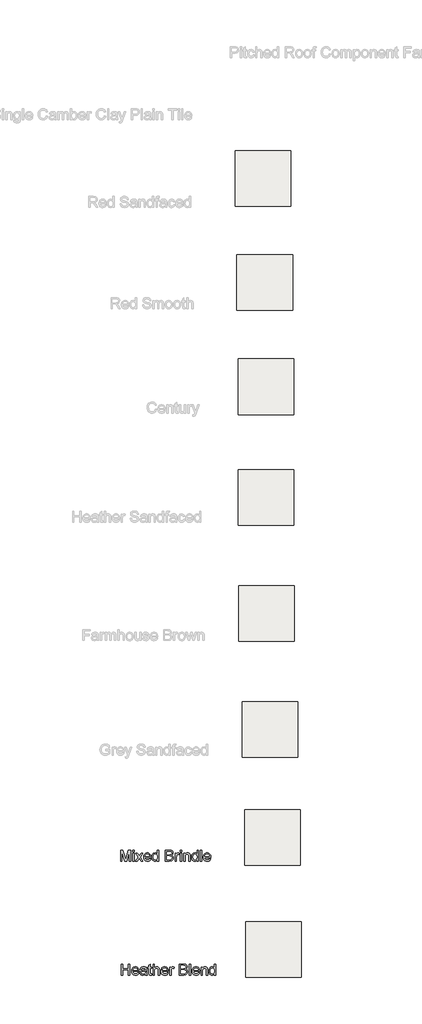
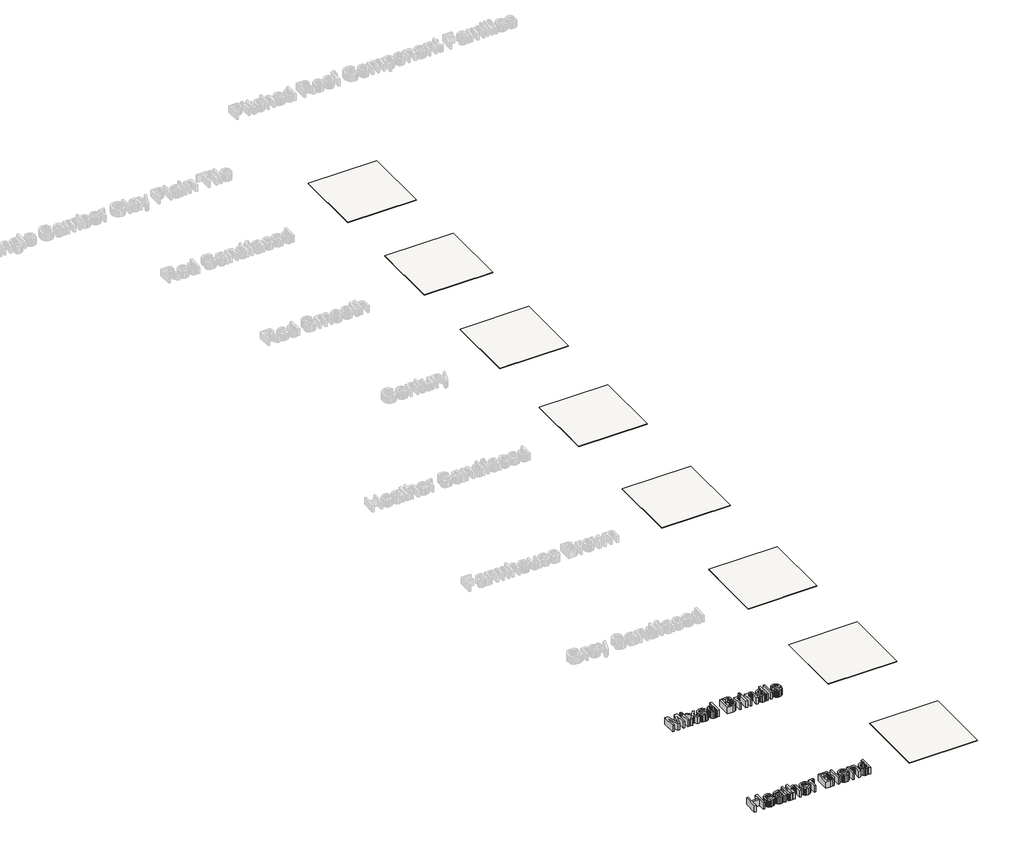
# One storey, part 1 of 6: 8 coverings, 2 proxies.
"""IFC4 building model written with IfcOpenShell, lengths in millimetres."""

from ifc_helpers import new_model, si_unit, frame, origin, place, context, project, spatial, polyline, outline, extrude, element, save

model = new_model("IFC4")

# Units and contexts
model_context = context("Model", 3, world=origin())
ifc_project = project(units=[si_unit("LENGTHUNIT", "METRE", prefix="MILLI")], contexts=[model_context])

# Site, building, storey
site = spatial("IfcSite", under=ifc_project)
building = spatial("IfcBuilding", under=site)
storey = spatial("IfcBuildingStorey", under=building, Name="Marley Clay Plain Tile", Elevation=3000.0)

# Proxies
placement = place(None, origin())
element("IfcBuildingElementProxy", 1, Name="600mm Arial", ObjectType="600mm Arial", at=placement, inside=storey, context=model_context, shape_type="SweptSolid", body=[
    extrude(outline(polyline([(-13857.863219, -14091.6887521), (-13857.863219, -13796.3041367), (-13794.3295651, -13796.3041367), (-13733.8968728, -14004.5012521), (-13721.7093728, -14047.986829), (-13708.5122574, -14000.8954829), (-13649.0891805, -13796.3041367), (-13585.5555267, -13796.3041367), (-13585.5555267, -14091.6887521), (-13622.4786036, -14091.6887521), (-13622.4786036, -13833.2272137), (-13696.6853344, -14091.6887521), (-13746.7334113, -14091.6887521), (-13820.940142, -13833.2272137), (-13820.940142, -14091.6887521), (-13857.863219, -14091.6887521)])), frame((0.0, 0.0, 3000.0), z_axis=(0.0, 0.0, 1.0), x_axis=(1.0, 0.0, 0.0)), (0.0, 0.0, 1.0), 150.0),
    extrude(outline(polyline([(-13525.5555267, -14091.6887521), (-13525.5555267, -13874.7656752), (-13488.6324497, -13874.7656752), (-13488.6324497, -14091.6887521), (-13525.5555267, -14091.6887521)])), frame((0.0, 0.0, 3000.0), z_axis=(0.0, 0.0, 1.0), x_axis=(1.0, 0.0, 0.0)), (0.0, 0.0, 1.0), 150.0),
    extrude(outline(polyline([(-13525.5555267, -13833.2272137), (-13525.5555267, -13796.3041367), (-13488.6324497, -13796.3041367), (-13488.6324497, -13833.2272137), (-13525.5555267, -13833.2272137)])), frame((0.0, 0.0, 3000.0), z_axis=(0.0, 0.0, 1.0), x_axis=(1.0, 0.0, 0.0)), (0.0, 0.0, 1.0), 150.0),
    extrude(outline(polyline([(-13456.3247574, -14091.6887521), (-13377.4305267, -13982.6502906), (-13451.7093728, -13874.7656752), (-13407.2862959, -13874.7656752), (-13371.4449497, -13926.6887521), (-13354.7141805, -13951.2079829), (-13340.2189882, -13931.159906), (-13299.4016805, -13874.7656752), (-13254.9786036, -13874.7656752), (-13333.0074497, -13982.6502906), (-13257.863219, -14091.6887521), (-13302.2862959, -14091.6887521), (-13347.502642, -14026.1358675), (-13355.7959113, -14014.1647137), (-13411.9016805, -14091.6887521), (-13456.3247574, -14091.6887521)])), frame((0.0, 0.0, 3000.0), z_axis=(0.0, 0.0, 1.0), x_axis=(1.0, 0.0, 0.0)), (0.0, 0.0, 1.0), 150.0),
    extrude(outline(polyline([(-13073.6805267, -14027.0733675), (-13037.4786036, -14031.6887521), (-13050.5224738, -14058.9663963), (-13071.3367767, -14079.3570213), (-13099.4527622, -14092.0673579), (-13134.4016805, -14096.3041367), (-13157.3118368, -14094.4764624), (-13177.7249978, -14088.9934396), (-13195.6411637, -14079.8550682), (-13211.0603344, -14067.0613483), (-13223.4596733, -14050.9683495), (-13232.316344, -14031.9321415), (-13237.6303464, -14009.9527245), (-13239.4016805, -13985.0300983), (-13237.6123175, -13959.2623699), (-13232.2442286, -13936.550531), (-13223.2974137, -13916.8945814), (-13210.7718728, -13900.2945213), (-13195.393267, -13887.1064204), (-13177.8872574, -13877.6863483), (-13158.253844, -13872.034305), (-13136.4930267, -13870.1502906), (-13115.4330807, -13872.0297978), (-13096.3878584, -13877.6683194), (-13079.3573596, -13887.0658555), (-13064.3415844, -13900.222406), (-13052.0842226, -13916.7864084), (-13043.3289642, -13936.4063002), (-13038.0758091, -13959.0820814), (-13036.3247574, -13984.8137521), (-13036.5411036, -13994.7656752), (-13202.4786036, -13994.7656752), (-13196.0873776, -14022.4038963), (-13181.2406228, -14042.722406), (-13159.8133392, -14055.2163963), (-13133.6805267, -14059.3810598), (-13114.0290844, -14057.4519733), (-13097.4786036, -14051.6647137), (-13084.0290844, -14041.658704), (-13073.6805267, -14027.0733675)]), holes=[polyline([(-13202.4786036, -13957.8425983), (-13073.2478344, -13957.8425983), (-13078.2418247, -13938.3353867), (-13088.0314882, -13924.3810598), (-13109.5579305, -13911.4002906), (-13136.6372574, -13907.0733675), (-13161.5260795, -13910.5258915), (-13182.1060074, -13920.8834637), (-13196.4118969, -13937.0282954), (-13202.4786036, -13957.8425983)])]), frame((0.0, 0.0, 3000.0), z_axis=(0.0, 0.0, 1.0), x_axis=(1.0, 0.0, 0.0)), (0.0, 0.0, 1.0), 150.0),
    extrude(outline(polyline([(-12865.5555267, -14091.6887521), (-12865.5555267, -14056.8570213), (-12876.6027021, -14074.1151343), (-12889.9846132, -14086.4423579), (-12905.7012598, -14093.838692), (-12923.752642, -14096.3041367), (-12947.6228344, -14092.7344252), (-12969.4737959, -14082.0252906), (-12987.971392, -14064.92493), (-13001.7814882, -14042.1815406), (-13010.3812478, -14014.7145935), (-13013.2478344, -13983.4435598), (-13010.6066084, -13952.5601463), (-13002.6829305, -13924.6695213), (-12989.4858151, -13901.3582233), (-12971.0242767, -13884.2127906), (-12948.6955507, -13873.6659156), (-12923.8968728, -13870.1502906), (-12905.831969, -13872.6653146), (-12889.8584113, -13880.2103867), (-12876.3187478, -13891.7758915), (-12865.5555267, -13906.3522137), (-12865.5555267, -13796.3041367), (-12828.6324497, -13796.3041367), (-12828.6324497, -14091.6887521), (-12865.5555267, -14091.6887521)]), holes=[polyline([(-12976.3247574, -13983.299329), (-12972.160094, -14016.6977665), (-12959.6661036, -14040.4507713), (-12941.5110555, -14054.6484877), (-12920.363219, -14059.3810598), (-12899.2243969, -14054.8648338), (-12881.5290844, -14041.316156), (-12869.5489161, -14018.4826223), (-12865.5555267, -13986.111829), (-12869.6210315, -13950.721204), (-12881.8175459, -13926.1839444), (-12899.9635795, -13911.8510117), (-12921.877642, -13907.0733675), (-12943.2418247, -13911.6617088), (-12960.7478344, -13925.4267329), (-12972.4305267, -13949.0715646), (-12976.3247574, -13983.299329)])]), frame((0.0, 0.0, 3000.0), z_axis=(0.0, 0.0, 1.0), x_axis=(1.0, 0.0, 0.0)), (0.0, 0.0, 1.0), 150.0),
    extrude(outline(polyline([(-12653.2478344, -14091.6887521), (-12653.2478344, -13796.3041367), (-12540.5314882, -13796.3041367), (-12509.5308872, -13798.4766127), (-12485.3271613, -13804.9940406), (-12466.7754786, -13816.01868), (-12452.7310074, -13831.7127906), (-12443.8878584, -13850.174329), (-12440.940142, -13869.5012521), (-12443.4191084, -13887.2867088), (-12450.8560074, -13904.0084637), (-12463.3049257, -13918.6388723), (-12480.8199497, -13930.1502906), (-12459.8974738, -13941.0757713), (-12444.4377382, -13957.6983675), (-12434.8914642, -13978.9183194), (-12431.7093728, -14003.6358675), (-12433.8818488, -14024.2338242), (-12440.3992767, -14043.3353867), (-12450.1258392, -14059.5793771), (-12461.925719, -14071.6046175), (-12476.3758392, -14080.3125502), (-12494.0531228, -14086.6046175), (-12541.3968728, -14091.6887521), (-12653.2478344, -14091.6887521)]), holes=[polyline([(-12616.3247574, -13916.3041367), (-12548.8968728, -13916.3041367), (-12509.5218728, -13913.1310598), (-12495.7388199, -13907.659305), (-12485.831969, -13899.4651944), (-12479.8554065, -13888.67493), (-12477.863219, -13875.4147137), (-12479.7201901, -13862.5421175), (-12485.2911036, -13851.3281752), (-12494.3235555, -13842.5751704), (-12506.565142, -13837.0853867), (-12554.0170651, -13833.2272137), (-12616.3247574, -13833.2272137), (-12616.3247574, -13916.3041367)]), polyline([(-12616.3247574, -14054.7656752), (-12540.6036036, -14054.7656752), (-12513.1997574, -14053.3233675), (-12490.0146613, -14045.2825021), (-12474.6540844, -14028.8762521), (-12470.1378584, -14017.283704), (-12468.6324497, -14003.9964444), (-12470.3992767, -13988.5637521), (-12475.6997574, -13975.2945213), (-12484.9575699, -13964.9189204), (-12498.596392, -13958.1671175), (-12517.9143007, -13954.4621896), (-12544.2093728, -13953.2272137), (-12616.3247574, -13953.2272137), (-12616.3247574, -14054.7656752)])]), frame((0.0, 0.0, 3000.0), z_axis=(0.0, 0.0, 1.0), x_axis=(1.0, 0.0, 0.0)), (0.0, 0.0, 1.0), 150.0),
    extrude(outline(polyline([(-12385.5555267, -14091.6887521), (-12385.5555267, -13874.7656752), (-12353.2478344, -13874.7656752), (-12353.2478344, -13906.8570213), (-12341.3127382, -13888.2512521), (-12330.315142, -13877.2897137), (-12319.2814882, -13871.9351463), (-12307.238219, -13870.1502906), (-12288.8487959, -13872.9988483), (-12270.1709113, -13881.5445213), (-12282.502642, -13914.6454829), (-12295.4834113, -13908.9663963), (-12308.4641805, -13907.0733675), (-12319.4888199, -13908.894281), (-12329.3415844, -13914.3570213), (-12337.3013199, -13923.0469252), (-12342.6468728, -13934.549329), (-12347.1360555, -13955.174329), (-12348.6324497, -13977.674329), (-12348.6324497, -14091.6887521), (-12385.5555267, -14091.6887521)])), frame((0.0, 0.0, 3000.0), z_axis=(0.0, 0.0, 1.0), x_axis=(1.0, 0.0, 0.0)), (0.0, 0.0, 1.0), 150.0),
    extrude(outline(polyline([(-12247.0939882, -14091.6887521), (-12247.0939882, -13874.7656752), (-12210.1709113, -13874.7656752), (-12210.1709113, -14091.6887521), (-12247.0939882, -14091.6887521)])), frame((0.0, 0.0, 3000.0), z_axis=(0.0, 0.0, 1.0), x_axis=(1.0, 0.0, 0.0)), (0.0, 0.0, 1.0), 150.0),
    extrude(outline(polyline([(-12247.0939882, -13833.2272137), (-12247.0939882, -13796.3041367), (-12210.1709113, -13796.3041367), (-12210.1709113, -13833.2272137), (-12247.0939882, -13833.2272137)])), frame((0.0, 0.0, 3000.0), z_axis=(0.0, 0.0, 1.0), x_axis=(1.0, 0.0, 0.0)), (0.0, 0.0, 1.0), 150.0),
    extrude(outline(polyline([(-12154.7862959, -14091.6887521), (-12154.7862959, -13874.7656752), (-12117.863219, -13874.7656752), (-12117.863219, -13905.0541367), (-12105.0356949, -13889.783704), (-12089.6300459, -13878.8762521), (-12071.6462719, -13872.331781), (-12051.0843728, -13870.1502906), (-12032.8842526, -13871.9081031), (-12016.2165844, -13877.1815406), (-12002.316344, -13885.3125502), (-11992.4185074, -13895.643079), (-11981.3487959, -13922.7945213), (-11979.4016805, -13958.4916367), (-11979.4016805, -14091.6887521), (-12016.3247574, -14091.6887521), (-12016.3247574, -13963.4675983), (-12020.5795651, -13930.799329), (-12026.4659834, -13921.0727665), (-12035.6156228, -13913.5276944), (-12047.3433872, -13908.6869492), (-12060.9641805, -13907.0733675), (-12082.5897815, -13910.6971656), (-12101.0242767, -13921.5685598), (-12108.3913139, -13930.4432593), (-12113.6534834, -13942.5721656), (-12117.863219, -13976.5925983), (-12117.863219, -14091.6887521), (-12154.7862959, -14091.6887521)])), frame((0.0, 0.0, 3000.0), z_axis=(0.0, 0.0, 1.0), x_axis=(1.0, 0.0, 0.0)), (0.0, 0.0, 1.0), 150.0),
    extrude(outline(polyline([(-11794.7862959, -14091.6887521), (-11794.7862959, -14056.8570213), (-11805.8334714, -14074.1151343), (-11819.2153824, -14086.4423579), (-11834.9320291, -14093.838692), (-11852.9834113, -14096.3041367), (-11876.8536036, -14092.7344252), (-11898.7045651, -14082.0252906), (-11917.2021613, -14064.92493), (-11931.0122574, -14042.1815406), (-11939.612017, -14014.7145935), (-11942.4786036, -13983.4435598), (-11939.8373776, -13952.5601463), (-11931.9136997, -13924.6695213), (-11918.7165844, -13901.3582233), (-11900.2550459, -13884.2127906), (-11877.9263199, -13873.6659156), (-11853.127642, -13870.1502906), (-11835.0627382, -13872.6653146), (-11819.0891805, -13880.2103867), (-11805.549517, -13891.7758915), (-11794.7862959, -13906.3522137), (-11794.7862959, -13796.3041367), (-11757.863219, -13796.3041367), (-11757.863219, -14091.6887521), (-11794.7862959, -14091.6887521)]), holes=[polyline([(-11905.5555267, -13983.299329), (-11901.3908632, -14016.6977665), (-11888.8968728, -14040.4507713), (-11870.7418247, -14054.6484877), (-11849.5939882, -14059.3810598), (-11828.4551661, -14054.8648338), (-11810.7598536, -14041.316156), (-11798.7796853, -14018.4826223), (-11794.7862959, -13986.111829), (-11798.8518007, -13950.721204), (-11811.0483151, -13926.1839444), (-11829.1943488, -13911.8510117), (-11851.1084113, -13907.0733675), (-11872.472594, -13911.6617088), (-11889.9786036, -13925.4267329), (-11901.6612959, -13949.0715646), (-11905.5555267, -13983.299329)])]), frame((0.0, 0.0, 3000.0), z_axis=(0.0, 0.0, 1.0), x_axis=(1.0, 0.0, 0.0)), (0.0, 0.0, 1.0), 150.0),
    extrude(outline(polyline([(-11702.4786036, -14091.6887521), (-11702.4786036, -13796.3041367), (-11665.5555267, -13796.3041367), (-11665.5555267, -14091.6887521), (-11702.4786036, -14091.6887521)])), frame((0.0, 0.0, 3000.0), z_axis=(0.0, 0.0, 1.0), x_axis=(1.0, 0.0, 0.0)), (0.0, 0.0, 1.0), 150.0),
    extrude(outline(polyline([(-11458.2959113, -14027.0733675), (-11422.0939882, -14031.6887521), (-11435.1378584, -14058.9663963), (-11455.9521613, -14079.3570213), (-11484.0681469, -14092.0673579), (-11519.0170651, -14096.3041367), (-11541.9272214, -14094.4764624), (-11562.3403824, -14088.9934396), (-11580.2565483, -14079.8550682), (-11595.675719, -14067.0613483), (-11608.0750579, -14050.9683495), (-11616.9317286, -14031.9321415), (-11622.245731, -14009.9527245), (-11624.0170651, -13985.0300983), (-11622.2277021, -13959.2623699), (-11616.8596132, -13936.550531), (-11607.9127983, -13916.8945814), (-11595.3872574, -13900.2945213), (-11580.0086517, -13887.1064204), (-11562.502642, -13877.6863483), (-11542.8692286, -13872.034305), (-11521.1084113, -13870.1502906), (-11500.0484654, -13872.0297978), (-11481.003243, -13877.6683194), (-11463.9727442, -13887.0658555), (-11448.956969, -13900.222406), (-11436.6996072, -13916.7864084), (-11427.9443488, -13936.4063002), (-11422.6911937, -13959.0820814), (-11420.940142, -13984.8137521), (-11421.1564882, -13994.7656752), (-11587.0939882, -13994.7656752), (-11580.7027622, -14022.4038963), (-11565.8560074, -14042.722406), (-11544.4287238, -14055.2163963), (-11518.2959113, -14059.3810598), (-11498.644469, -14057.4519733), (-11482.0939882, -14051.6647137), (-11468.644469, -14041.658704), (-11458.2959113, -14027.0733675)]), holes=[polyline([(-11587.0939882, -13957.8425983), (-11457.863219, -13957.8425983), (-11462.8572094, -13938.3353867), (-11472.6468728, -13924.3810598), (-11494.1733151, -13911.4002906), (-11521.252642, -13907.0733675), (-11546.1414642, -13910.5258915), (-11566.721392, -13920.8834637), (-11581.0272815, -13937.0282954), (-11587.0939882, -13957.8425983)])]), frame((0.0, 0.0, 3000.0), z_axis=(0.0, 0.0, 1.0), x_axis=(1.0, 0.0, 0.0)), (0.0, 0.0, 1.0), 150.0),
])
element("IfcBuildingElementProxy", 2, Name="600mm Arial", ObjectType="600mm Arial", at=placement, inside=storey, context=model_context, shape_type="SweptSolid", body=[
    extrude(outline(polyline([(-13840.4988376, -17169.0696147), (-13840.4988376, -16873.6849993), (-13803.5757607, -16873.6849993), (-13803.5757607, -16993.6849993), (-13646.6526837, -16993.6849993), (-13646.6526837, -16873.6849993), (-13609.7296068, -16873.6849993), (-13609.7296068, -17169.0696147), (-13646.6526837, -17169.0696147), (-13646.6526837, -17030.6080762), (-13803.5757607, -17030.6080762), (-13803.5757607, -17169.0696147), (-13840.4988376, -17169.0696147)])), frame((0.0, 0.0, 3000.0), z_axis=(0.0, 0.0, 1.0), x_axis=(1.0, 0.0, 0.0)), (0.0, 0.0, 1.0), 150.0),
    extrude(outline(polyline([(-13397.8546068, -17104.45423), (-13361.6526837, -17109.0696147), (-13374.6965539, -17136.3472589), (-13395.5108568, -17156.7378839), (-13423.6268424, -17169.4482204), (-13458.5757607, -17173.6849993), (-13481.4859169, -17171.857325), (-13501.899078, -17166.3743022), (-13519.8152438, -17157.2359308), (-13535.2344145, -17144.4422108), (-13547.6337534, -17128.349212), (-13556.4904241, -17109.3130041), (-13561.8044265, -17087.333587), (-13563.5757607, -17062.4109608), (-13561.7863977, -17036.6432324), (-13556.4183087, -17013.9313935), (-13547.4714938, -16994.275444), (-13534.945953, -16977.6753839), (-13519.5673472, -16964.4872829), (-13502.0613376, -16955.0672108), (-13482.4279241, -16949.4151675), (-13460.6671068, -16947.5311531), (-13439.6071609, -16949.4106603), (-13420.5619385, -16955.049182), (-13403.5314397, -16964.446718), (-13388.5156645, -16977.6032685), (-13376.2583027, -16994.1672709), (-13367.5030443, -17013.7871627), (-13362.2498893, -17036.462944), (-13360.4988376, -17062.1946147), (-13360.7151837, -17072.1465377), (-13526.6526837, -17072.1465377), (-13520.2614578, -17099.7847589), (-13505.414703, -17120.1032685), (-13483.9874193, -17132.5972589), (-13457.8546068, -17136.7619224), (-13438.2031645, -17134.8328358), (-13421.6526837, -17129.0455762), (-13408.2031645, -17119.0395666), (-13397.8546068, -17104.45423)]), holes=[polyline([(-13526.6526837, -17035.2234608), (-13397.4219145, -17035.2234608), (-13402.4159049, -17015.7162493), (-13412.2055684, -17001.7619224), (-13433.7320107, -16988.7811531), (-13460.8113376, -16984.45423), (-13485.7001597, -16987.9067541), (-13506.2800876, -16998.2643262), (-13520.585977, -17014.4091579), (-13526.6526837, -17035.2234608)])]), frame((0.0, 0.0, 3000.0), z_axis=(0.0, 0.0, 1.0), x_axis=(1.0, 0.0, 0.0)), (0.0, 0.0, 1.0), 150.0),
    extrude(outline(polyline([(-13185.1142222, -17141.377307), (-13202.7554482, -17156.5035089), (-13220.9195107, -17166.4013454), (-13240.0210732, -17171.8640858), (-13260.4747991, -17173.6849993), (-13291.3311693, -17169.3039897), (-13314.0925876, -17156.1609608), (-13328.1280443, -17136.2030281), (-13332.8065299, -17111.377307), (-13331.039703, -17096.0708166), (-13325.7392222, -17082.1705762), (-13317.5631405, -17070.2715377), (-13307.1695107, -17060.9686531), (-13281.3161453, -17048.8532685), (-13249.3690299, -17043.3003839), (-13211.616626, -17037.4590377), (-13185.3305684, -17030.6080762), (-13185.1142222, -17022.3869224), (-13187.6562895, -17005.908557), (-13195.2824914, -16995.127307), (-13212.3377799, -16987.1224993), (-13236.0997991, -16984.45423), (-13258.0949914, -16986.2300714), (-13273.4555684, -16991.5575954), (-13283.930328, -17001.4103599), (-13291.2680684, -17016.7619224), (-13328.1911453, -17012.1465377), (-13321.7818905, -16991.95423), (-13312.2175876, -16976.0888454), (-13298.6058087, -16963.955432), (-13280.054126, -16954.9590377), (-13257.3648232, -16949.3881243), (-13231.3401837, -16947.5311531), (-13206.3792462, -16949.1717781), (-13186.5925876, -16954.0936531), (-13171.6737174, -16961.4944945), (-13161.3161453, -16970.5720185), (-13154.4471549, -16981.7949752), (-13149.9940299, -16995.6321147), (-13148.1911453, -17027.939807), (-13148.1911453, -17073.877307), (-13146.3161453, -17138.0239416), (-13138.960376, -17169.0696147), (-13175.883453, -17169.0696147), (-13185.1142222, -17141.377307)]), holes=[polyline([(-13185.1142222, -17067.5311531), (-13244.6815299, -17078.8532685), (-13276.4483568, -17084.8388454), (-13290.835376, -17094.5744224), (-13295.883453, -17108.7811531), (-13293.1340539, -17119.7607204), (-13284.8858568, -17128.7571147), (-13271.3191501, -17134.7607204), (-13252.6142222, -17136.7619224), (-13232.7824914, -17134.5533887), (-13215.258453, -17127.9277877), (-13201.0517222, -17118.1651675), (-13191.1719145, -17106.5455762), (-13186.7909049, -17094.5744224), (-13185.3305684, -17077.9878839), (-13185.1142222, -17067.5311531)])]), frame((0.0, 0.0, 3000.0), z_axis=(0.0, 0.0, 1.0), x_axis=(1.0, 0.0, 0.0)), (0.0, 0.0, 1.0), 150.0),
    extrude(outline(polyline([(-13018.960376, -17138.2763454), (-13014.3449914, -17170.1513454), (-13041.9651837, -17173.6849993), (-13059.6875395, -17172.1525474), (-13072.9026837, -17167.5551916), (-13082.241626, -17160.469855), (-13088.335376, -17151.4734608), (-13091.6887414, -17136.0227397), (-13092.8065299, -17109.5744224), (-13092.8065299, -16989.0696147), (-13120.4988376, -16989.0696147), (-13120.4988376, -16952.1465377), (-13092.8065299, -16952.1465377), (-13092.8065299, -16899.4301916), (-13055.883453, -16877.7234608), (-13055.883453, -16952.1465377), (-13018.960376, -16952.1465377), (-13018.960376, -16989.0696147), (-13055.883453, -16989.0696147), (-13055.883453, -17108.4926916), (-13053.9363376, -17127.5311531), (-13047.6262414, -17134.2739416), (-13035.0421068, -17136.7619224), (-13018.960376, -17138.2763454)])), frame((0.0, 0.0, 3000.0), z_axis=(0.0, 0.0, 1.0), x_axis=(1.0, 0.0, 0.0)), (0.0, 0.0, 1.0), 150.0),
    extrude(outline(polyline([(-12982.0372991, -17169.0696147), (-12982.0372991, -16873.6849993), (-12945.1142222, -16873.6849993), (-12945.1142222, -16982.2907685), (-12931.5520227, -16967.0834368), (-12916.3221549, -16956.221057), (-12899.4246188, -16949.7036291), (-12880.8594145, -16947.5311531), (-12858.5577318, -16949.9019464), (-12839.3930684, -16957.0143262), (-12824.3029241, -16968.3093983), (-12814.2247991, -16983.2282685), (-12808.5457126, -17003.7270666), (-12806.6526837, -17031.7619224), (-12806.6526837, -17169.0696147), (-12843.5757607, -17169.0696147), (-12843.5757607, -17035.5840377), (-12846.5144626, -17012.471057), (-12855.3305684, -16996.64173), (-12869.5372991, -16987.501105), (-12888.647876, -16984.45423), (-12904.2518424, -16986.5095185), (-12918.9002799, -16992.6753839), (-12931.0336934, -17002.3568743), (-12939.0925876, -17014.9590377), (-12943.6088135, -17031.7078358), (-12945.1142222, -17053.82923), (-12945.1142222, -17169.0696147), (-12982.0372991, -17169.0696147)])), frame((0.0, 0.0, 3000.0), z_axis=(0.0, 0.0, 1.0), x_axis=(1.0, 0.0, 0.0)), (0.0, 0.0, 1.0), 150.0),
    extrude(outline(polyline([(-12604.008453, -17104.45423), (-12567.8065299, -17109.0696147), (-12580.8504001, -17136.3472589), (-12601.664703, -17156.7378839), (-12629.7806885, -17169.4482204), (-12664.7296068, -17173.6849993), (-12687.6397631, -17171.857325), (-12708.0529241, -17166.3743022), (-12725.96909, -17157.2359308), (-12741.3882607, -17144.4422108), (-12753.7875996, -17128.349212), (-12762.6442703, -17109.3130041), (-12767.9582727, -17087.333587), (-12769.7296068, -17062.4109608), (-12767.9402438, -17036.6432324), (-12762.5721549, -17013.9313935), (-12753.62534, -16994.275444), (-12741.0997991, -16977.6753839), (-12725.7211934, -16964.4872829), (-12708.2151837, -16955.0672108), (-12688.5817703, -16949.4151675), (-12666.820953, -16947.5311531), (-12645.7610071, -16949.4106603), (-12626.7157847, -16955.049182), (-12609.6852859, -16964.446718), (-12594.6695107, -16977.6032685), (-12582.4121489, -16994.1672709), (-12573.6568905, -17013.7871627), (-12568.4037354, -17036.462944), (-12566.6526837, -17062.1946147), (-12566.8690299, -17072.1465377), (-12732.8065299, -17072.1465377), (-12726.4153039, -17099.7847589), (-12711.5685491, -17120.1032685), (-12690.1412655, -17132.5972589), (-12664.008453, -17136.7619224), (-12644.3570107, -17134.8328358), (-12627.8065299, -17129.0455762), (-12614.3570107, -17119.0395666), (-12604.008453, -17104.45423)]), holes=[polyline([(-12732.8065299, -17035.2234608), (-12603.5757607, -17035.2234608), (-12608.569751, -17015.7162493), (-12618.3594145, -17001.7619224), (-12639.8858568, -16988.7811531), (-12666.9651837, -16984.45423), (-12691.8540059, -16987.9067541), (-12712.4339337, -16998.2643262), (-12726.7398232, -17014.4091579), (-12732.8065299, -17035.2234608)])]), frame((0.0, 0.0, 3000.0), z_axis=(0.0, 0.0, 1.0), x_axis=(1.0, 0.0, 0.0)), (0.0, 0.0, 1.0), 150.0),
    extrude(outline(polyline([(-12529.7296068, -17169.0696147), (-12529.7296068, -16952.1465377), (-12497.4219145, -16952.1465377), (-12497.4219145, -16984.2378839), (-12485.4868184, -16965.6321147), (-12474.4892222, -16954.6705762), (-12463.4555684, -16949.3160089), (-12451.4122991, -16947.5311531), (-12433.022876, -16950.3797108), (-12414.3449914, -16958.9253839), (-12426.6767222, -16992.0263454), (-12439.6574914, -16986.3472589), (-12452.6382607, -16984.45423), (-12463.6629001, -16986.2751435), (-12473.5156645, -16991.7378839), (-12481.4754001, -17000.4277877), (-12486.820953, -17011.9301916), (-12491.3101357, -17032.5551916), (-12492.8065299, -17055.0551916), (-12492.8065299, -17169.0696147), (-12529.7296068, -17169.0696147)])), frame((0.0, 0.0, 3000.0), z_axis=(0.0, 0.0, 1.0), x_axis=(1.0, 0.0, 0.0)), (0.0, 0.0, 1.0), 150.0),
    extrude(outline(polyline([(-12271.2680684, -17169.0696147), (-12271.2680684, -16873.6849993), (-12158.5517222, -16873.6849993), (-12127.5511212, -16875.8574752), (-12103.3473953, -16882.3749031), (-12084.7957126, -16893.3995425), (-12070.7512414, -16909.0936531), (-12061.9080924, -16927.5551916), (-12058.960376, -16946.8821147), (-12061.4393424, -16964.6675714), (-12068.8762414, -16981.3893262), (-12081.3251597, -16996.0197349), (-12098.8401837, -17007.5311531), (-12077.9177078, -17018.4566339), (-12062.4579722, -17035.07923), (-12052.9116982, -17056.299182), (-12049.7296068, -17081.01673), (-12051.9020828, -17101.6146868), (-12058.4195107, -17120.7162493), (-12068.1460732, -17136.9602397), (-12079.945953, -17148.98548), (-12094.3960732, -17157.6934127), (-12112.0733568, -17163.98548), (-12159.4171068, -17169.0696147), (-12271.2680684, -17169.0696147)]), holes=[polyline([(-12234.3449914, -16993.6849993), (-12166.9171068, -16993.6849993), (-12127.5421068, -16990.5119224), (-12113.7590539, -16985.0401675), (-12103.852203, -16976.846057), (-12097.8756405, -16966.0557925), (-12095.883453, -16952.7955762), (-12097.7404241, -16939.92298), (-12103.3113376, -16928.7090377), (-12112.3437895, -16919.9560329), (-12124.585376, -16914.4662493), (-12172.0372991, -16910.6080762), (-12234.3449914, -16910.6080762), (-12234.3449914, -16993.6849993)]), polyline([(-12234.3449914, -17132.1465377), (-12158.6238376, -17132.1465377), (-12131.2199914, -17130.70423), (-12108.0348953, -17122.6633647), (-12092.6743184, -17106.2571147), (-12088.1580924, -17094.6645666), (-12086.6526837, -17081.377307), (-12088.4195107, -17065.9446147), (-12093.7199914, -17052.6753839), (-12102.9778039, -17042.2997829), (-12116.616626, -17035.54798), (-12135.9345347, -17031.8430522), (-12162.2296068, -17030.6080762), (-12234.3449914, -17030.6080762), (-12234.3449914, -17132.1465377)])]), frame((0.0, 0.0, 3000.0), z_axis=(0.0, 0.0, 1.0), x_axis=(1.0, 0.0, 0.0)), (0.0, 0.0, 1.0), 150.0),
    extrude(outline(polyline([(-12003.5757607, -17169.0696147), (-12003.5757607, -16873.6849993), (-11966.6526837, -16873.6849993), (-11966.6526837, -17169.0696147), (-12003.5757607, -17169.0696147)])), frame((0.0, 0.0, 3000.0), z_axis=(0.0, 0.0, 1.0), x_axis=(1.0, 0.0, 0.0)), (0.0, 0.0, 1.0), 150.0),
    extrude(outline(polyline([(-11759.3930684, -17104.45423), (-11723.1911453, -17109.0696147), (-11736.2350155, -17136.3472589), (-11757.0493184, -17156.7378839), (-11785.1653039, -17169.4482204), (-11820.1142222, -17173.6849993), (-11843.0243784, -17171.857325), (-11863.4375395, -17166.3743022), (-11881.3537054, -17157.2359308), (-11896.772876, -17144.4422108), (-11909.172215, -17128.349212), (-11918.0288857, -17109.3130041), (-11923.3428881, -17087.333587), (-11925.1142222, -17062.4109608), (-11923.3248592, -17036.6432324), (-11917.9567703, -17013.9313935), (-11909.0099554, -16994.275444), (-11896.4844145, -16977.6753839), (-11881.1058087, -16964.4872829), (-11863.5997991, -16955.0672108), (-11843.9663857, -16949.4151675), (-11822.2055684, -16947.5311531), (-11801.1456224, -16949.4106603), (-11782.1004001, -16955.049182), (-11765.0699013, -16964.446718), (-11750.054126, -16977.6032685), (-11737.7967643, -16994.1672709), (-11729.0415059, -17013.7871627), (-11723.7883508, -17036.462944), (-11722.0372991, -17062.1946147), (-11722.2536453, -17072.1465377), (-11888.1911453, -17072.1465377), (-11881.7999193, -17099.7847589), (-11866.9531645, -17120.1032685), (-11845.5258809, -17132.5972589), (-11819.3930684, -17136.7619224), (-11799.741626, -17134.8328358), (-11783.1911453, -17129.0455762), (-11769.741626, -17119.0395666), (-11759.3930684, -17104.45423)]), holes=[polyline([(-11888.1911453, -17035.2234608), (-11758.960376, -17035.2234608), (-11763.9543664, -17015.7162493), (-11773.7440299, -17001.7619224), (-11795.2704722, -16988.7811531), (-11822.3497991, -16984.45423), (-11847.2386212, -16987.9067541), (-11867.8185491, -16998.2643262), (-11882.1244385, -17014.4091579), (-11888.1911453, -17035.2234608)])]), frame((0.0, 0.0, 3000.0), z_axis=(0.0, 0.0, 1.0), x_axis=(1.0, 0.0, 0.0)), (0.0, 0.0, 1.0), 150.0),
    extrude(outline(polyline([(-11685.1142222, -17169.0696147), (-11685.1142222, -16952.1465377), (-11648.1911453, -16952.1465377), (-11648.1911453, -16982.4349993), (-11635.3636212, -16967.1645666), (-11619.9579722, -16956.2571147), (-11601.9741982, -16949.7126435), (-11581.4122991, -16947.5311531), (-11563.2121789, -16949.2889656), (-11546.5445107, -16954.5624031), (-11532.6442703, -16962.6934127), (-11522.7464337, -16973.0239416), (-11511.6767222, -17000.1753839), (-11509.7296068, -17035.8724993), (-11509.7296068, -17169.0696147), (-11546.6526837, -17169.0696147), (-11546.6526837, -17040.8484608), (-11550.9074914, -17008.1801916), (-11556.7939097, -16998.4536291), (-11565.9435491, -16990.908557), (-11577.6713135, -16986.0678118), (-11591.2921068, -16984.45423), (-11612.9177078, -16988.0780281), (-11631.352203, -16998.9494224), (-11638.7192402, -17007.8241219), (-11643.9814097, -17019.9530281), (-11648.1911453, -17053.9734608), (-11648.1911453, -17169.0696147), (-11685.1142222, -17169.0696147)])), frame((0.0, 0.0, 3000.0), z_axis=(0.0, 0.0, 1.0), x_axis=(1.0, 0.0, 0.0)), (0.0, 0.0, 1.0), 150.0),
    extrude(outline(polyline([(-11325.1142222, -17169.0696147), (-11325.1142222, -17134.2378839), (-11336.1613977, -17151.4959969), (-11349.5433087, -17163.8232204), (-11365.2599554, -17171.2195546), (-11383.3113376, -17173.6849993), (-11407.1815299, -17170.1152877), (-11429.0324914, -17159.4061531), (-11447.5300876, -17142.3057925), (-11461.3401837, -17119.5624031), (-11469.9399434, -17092.095456), (-11472.8065299, -17060.8244224), (-11470.1653039, -17029.9410089), (-11462.241626, -17002.0503839), (-11449.0445107, -16978.7390858), (-11430.5829722, -16961.5936531), (-11408.2542462, -16951.0467781), (-11383.4555684, -16947.5311531), (-11365.3906645, -16950.0461772), (-11349.4171068, -16957.5912493), (-11335.8774434, -16969.1567541), (-11325.1142222, -16983.7330762), (-11325.1142222, -16873.6849993), (-11288.1911453, -16873.6849993), (-11288.1911453, -17169.0696147), (-11325.1142222, -17169.0696147)]), holes=[polyline([(-11435.883453, -17060.6801916), (-11431.7187895, -17094.0786291), (-11419.2247991, -17117.8316339), (-11401.069751, -17132.0293502), (-11379.9219145, -17136.7619224), (-11358.7830924, -17132.2456964), (-11341.0877799, -17118.6970185), (-11329.1076116, -17095.8634849), (-11325.1142222, -17063.4926916), (-11329.179727, -17028.1020666), (-11341.3762414, -17003.564807), (-11359.5222751, -16989.2318743), (-11381.4363376, -16984.45423), (-11402.8005203, -16989.0425714), (-11420.3065299, -17002.8075954), (-11431.9892222, -17026.4524272), (-11435.883453, -17060.6801916)])]), frame((0.0, 0.0, 3000.0), z_axis=(0.0, 0.0, 1.0), x_axis=(1.0, 0.0, 0.0)), (0.0, 0.0, 1.0), 150.0),
])

# Coverings
element("IfcCovering", 3, ObjectType="Marley_ClayPlainTile_AcmeSCRedSandfaced", at=placement, inside=storey, context=model_context, shape_type="SweptSolid", body=[
    extrude(outline(polyline([(-10768.7864858, 3594.4472609), (-10768.7864858, 5094.4472609), (-9268.7864858, 5094.4472609), (-9268.7864858, 3594.4472609), (-10768.7864858, 3594.4472609)])), frame((0.0, 0.0, 3000.0), z_axis=(0.0, 0.0, 1.0), x_axis=(1.0, 0.0, 0.0)), (0.0, 0.0, 1.0), 11.0),
])
element("IfcCovering", 4, ObjectType="Marley_ClayPlainTile_AcmeSCCentury", at=placement, inside=storey, context=model_context, shape_type="SweptSolid", body=[
    extrude(outline(polyline([(-10685.4192558, -2031.9869323), (-10685.4192558, -531.9869323), (-9185.4192558, -531.9869323), (-9185.4192558, -2031.9869323), (-10685.4192558, -2031.9869323)])), frame((0.0, 0.0, 3000.0), z_axis=(0.0, 0.0, 1.0), x_axis=(1.0, 0.0, 0.0)), (0.0, 0.0, 1.0), 11.0),
])
element("IfcCovering", 5, ObjectType="Marley_ClayPlainTile_AcmeSCGreysandfaced", at=placement, inside=storey, context=model_context, shape_type="SweptSolid", body=[
    extrude(outline(polyline([(-10576.6834071, -11285.1346058), (-10576.6834071, -9785.1346058), (-9076.6834071, -9785.1346058), (-9076.6834071, -11285.1346058), (-10576.6834071, -11285.1346058)])), frame((0.0, 0.0, 3000.0), z_axis=(0.0, 0.0, 1.0), x_axis=(1.0, 0.0, 0.0)), (0.0, 0.0, 1.0), 11.0),
])
element("IfcCovering", 6, ObjectType="Marley_ClayPlainTile_AcmeSCFarmhouseBrown", at=placement, inside=storey, context=model_context, shape_type="SweptSolid", body=[
    extrude(outline(polyline([(-10664.5334031, -8150.3856158), (-10664.5334031, -6650.3856158), (-9164.5334031, -6650.3856158), (-9164.5334031, -8150.3856158), (-10664.5334031, -8150.3856158)])), frame((0.0, 0.0, 3000.0), z_axis=(0.0, 0.0, 1.0), x_axis=(1.0, 0.0, 0.0)), (0.0, 0.0, 1.0), 11.0),
])
element("IfcCovering", 7, ObjectType="Marley_ClayPlainTile_AcmeSCRedSmooth", at=placement, inside=storey, context=model_context, shape_type="SweptSolid", body=[
    extrude(outline(polyline([(-10715.2946828, 787.0813306), (-10715.2946828, 2287.0813306), (-9215.2946828, 2287.0813306), (-9215.2946828, 787.0813306), (-10715.2946828, 787.0813306)])), frame((0.0, 0.0, 3000.0), z_axis=(0.0, 0.0, 1.0), x_axis=(1.0, 0.0, 0.0)), (0.0, 0.0, 1.0), 11.0),
])
element("IfcCovering", 8, ObjectType="Marley_ClayPlainTile_AcmeSCMixedBrindle", at=placement, inside=storey, context=model_context, shape_type="SweptSolid", body=[
    extrude(outline(polyline([(-10502.6625305, -14202.7888508), (-10502.6625305, -12702.7888508), (-9002.6625305, -12702.7888508), (-9002.6625305, -14202.7888508), (-10502.6625305, -14202.7888508)])), frame((0.0, 0.0, 3000.0), z_axis=(0.0, 0.0, 1.0), x_axis=(1.0, 0.0, 0.0)), (0.0, 0.0, 1.0), 11.0),
])
element("IfcCovering", 9, ObjectType="Marley_ClayPlainTile_AcmeSCHeatherBlend", at=placement, inside=storey, context=model_context, shape_type="SweptSolid", body=[
    extrude(outline(polyline([(-10483.4583204, -17233.7098643), (-10483.4583204, -15733.7098643), (-8983.4583204, -15733.7098643), (-8983.4583204, -17233.7098643), (-10483.4583204, -17233.7098643)])), frame((0.0, 0.0, 3000.0), z_axis=(0.0, 0.0, 1.0), x_axis=(1.0, 0.0, 0.0)), (0.0, 0.0, 1.0), 11.0),
])
element("IfcCovering", 10, ObjectType="Marley_ClayPlainTile_AcmeSCHeatherSandfaced", at=placement, inside=storey, context=model_context, shape_type="SweptSolid", body=[
    extrude(outline(polyline([(-10676.7218765, -5026.7605136), (-10676.7218765, -3526.7605136), (-9176.7218765, -3526.7605136), (-9176.7218765, -5026.7605136), (-10676.7218765, -5026.7605136)])), frame((0.0, 0.0, 3000.0), z_axis=(0.0, 0.0, 1.0), x_axis=(1.0, 0.0, 0.0)), (0.0, 0.0, 1.0), 11.0),
])

save(model, "model.ifc")
